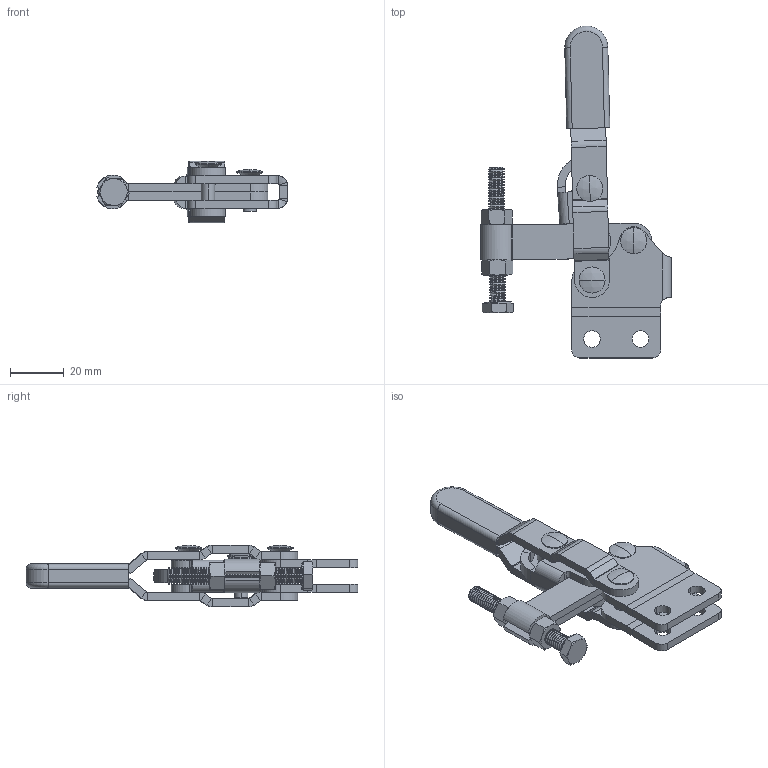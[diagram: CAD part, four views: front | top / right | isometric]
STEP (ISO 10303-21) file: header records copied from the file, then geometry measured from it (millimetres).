
FILE_DESCRIPTION (( 'STEP AP214' ), '1' );
FILE_NAME ('ISK-40K0.STEP', '2015-06-29T10:03:37', ( '' ), ( '' ), 'SwSTEP 2.0', 'SolidWorks 2015', '' );
FILE_SCHEMA (( 'AUTOMOTIVE_DESIGN' ));
Length unit declared in the file: millimetre
Products named in the file (10): Arm; Base; ISK-40K0; hexagon nut style 2_ab_jis_JIS B 1181 Hexagon nut - style 2 A M6 - D --N; continuous thread hexagon head bolt_a_jis_JIS B 1180 Continuous thread hexagon head bolt A M6 x 50 --S; 120 degree oval countersunk rivets gb_GB_RIVETS_COUNTERSUNK_TYPE88 5X13; 120 degree oval countersunk rivets gb_GB_RIVETS_COUNTERSUNK_TYPE88 5X18; Grip; Link; Handle
Assembly tree (14 placements, depth 2):
  ISK-40K0
    Base
    Arm  x2
    Handle  x2
    Link
    Grip
    120 degree oval countersunk rivets gb_GB_RIVETS_COUNTERSUNK_TYPE88 5X18  x2
    120 degree oval countersunk rivets gb_GB_RIVETS_COUNTERSUNK_TYPE88 5X13  x2
    continuous thread hexagon head bolt_a_jis_JIS B 1180 Continuous thread hexagon head bolt A M6 x 50 --S
    hexagon nut style 2_ab_jis_JIS B 1181 Hexagon nut - style 2 A M6 - D --N  x2
Bounding box: 70.91 x 123.34 x 23 mm (x, y, z)
Volume: 28499.7 mm3; surface area: 27334.2 mm2
Topology: 14 solids, 14 shells, 750 faces, 1796 edges, 1076 vertices
Faces by surface type: cylinder 250, cone 244, plane 228, torus 14, sphere 8, bspline 6
Entity records: 19049 total; most frequent: CARTESIAN_POINT 3561, DIRECTION 3475, ORIENTED_EDGE 3026, EDGE_CURVE 1513, AXIS2_PLACEMENT_3D 1394, VERTEX_POINT 918, CIRCLE 768, VECTOR 687
